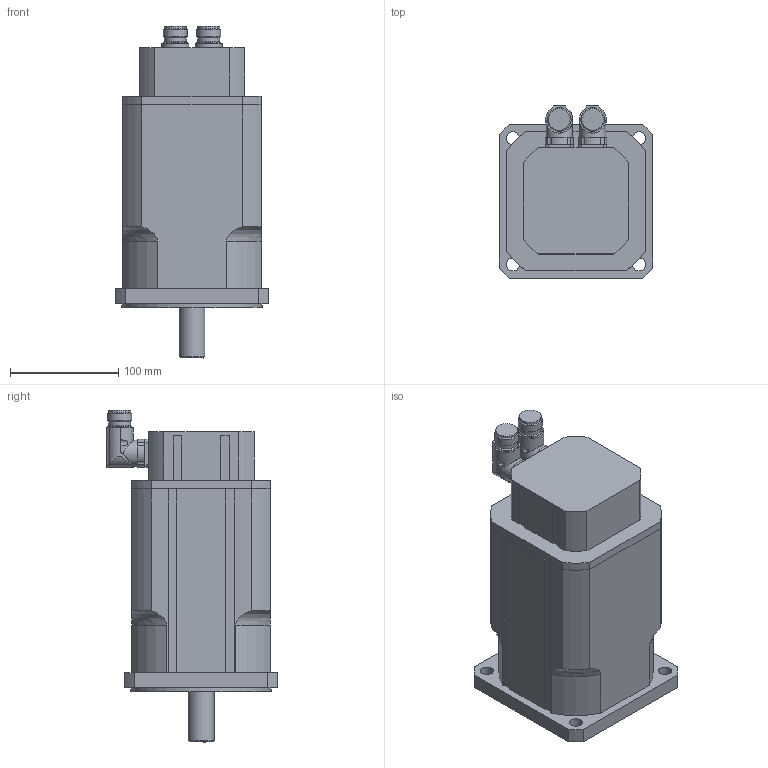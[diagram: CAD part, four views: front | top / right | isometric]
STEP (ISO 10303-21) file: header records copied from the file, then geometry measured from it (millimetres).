
FILE_DESCRIPTION(/* description */ ('Alibre Inc.'),/* implementation_level */ '2;1');
FILE_NAME(/* name */ 'export2',/* time_stamp */ '2013-07-26T13:53:18+02:00',/* author */ (''),/* organization */ (''),/* preprocessor_version */ 'ST-DEVELOPER v12',/* originating_system */ 'Alibre',/* authorisation */ '');
FILE_SCHEMA (('CONFIG_CONTROL_DESIGN'));
Length unit declared in the file: millimetre
Products named in the file (5): ID_1
Bounding box: 142 x 159 x 307 mm (x, y, z)
Volume: 3520012.4 mm3; surface area: 227577.8 mm2
Topology: 5 solids, 5 shells, 213 faces, 550 edges, 359 vertices
Faces by surface type: plane 110, cylinder 87, cone 10, torus 4, bspline 2
Full cylindrical faces by diameter (mm): 2.7 x8, 6.647 x1, 12 x4, 20 x8, 22 x4, 24 x3, 130 x1
Entity records: 5584 total; most frequent: CARTESIAN_POINT 1361, ORIENTED_EDGE 742, DIRECTION 726, EDGE_CURVE 371, AXIS2_PLACEMENT_3D 300, VERTEX_POINT 259, VECTOR 211, LINE 211
